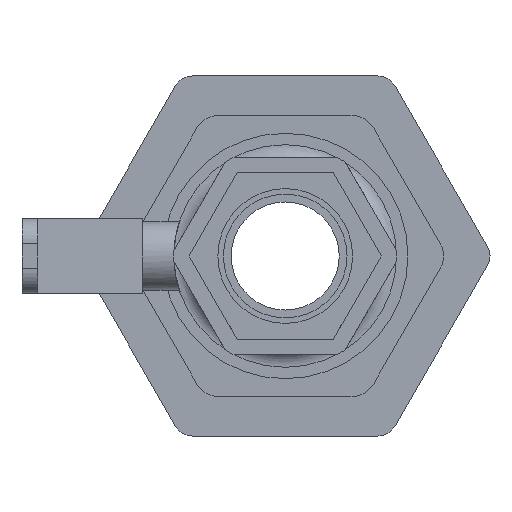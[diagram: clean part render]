
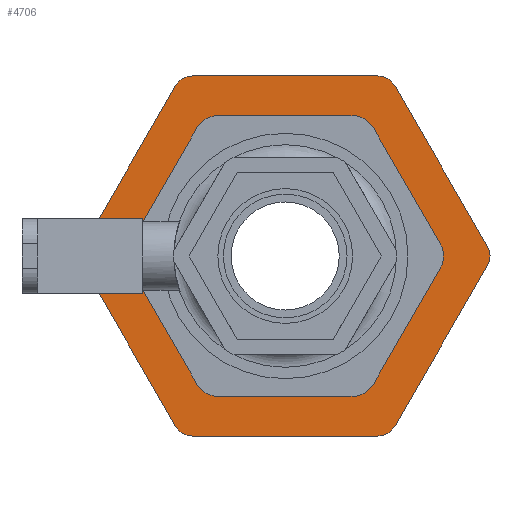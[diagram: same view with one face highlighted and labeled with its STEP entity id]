
A CAD part, left-side view. The second image highlights one B-rep face of the part: STEP entity #4706.
In plain terms, the highlighted planar face has unit normal (-1, 0, 0) as drawn and (1, 0, 0) by its records, which use the part's own axes.
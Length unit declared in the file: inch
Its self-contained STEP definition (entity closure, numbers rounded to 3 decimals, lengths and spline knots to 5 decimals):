
#112=FACE_BOUND('',#759,.T.);
#260=PLANE('',#5324);
#487=FACE_OUTER_BOUND('',#758,.T.);
#758=EDGE_LOOP('',(#3987,#3988,#3989,#3990,#3991,#3992,#3993,#3994,#3995,
#3996,#3997,#3998));
#759=EDGE_LOOP('',(#3999,#4000,#4001,#4002,#4003,#4004,#4005,#4006,#4007,
#4008,#4009,#4010));
#1149=LINE('',#8054,#1548);
#1150=LINE('',#8058,#1549);
#1151=LINE('',#8062,#1550);
#1152=LINE('',#8066,#1551);
#1153=LINE('',#8070,#1552);
#1154=LINE('',#8074,#1553);
#1155=LINE('',#8080,#1554);
#1156=LINE('',#8084,#1555);
#1157=LINE('',#8088,#1556);
#1158=LINE('',#8092,#1557);
#1159=LINE('',#8096,#1558);
#1160=LINE('',#8099,#1559);
#1548=VECTOR('',#6587,0.3937);
#1549=VECTOR('',#6590,0.3937);
#1550=VECTOR('',#6593,0.3937);
#1551=VECTOR('',#6596,0.3937);
#1552=VECTOR('',#6599,0.3937);
#1553=VECTOR('',#6602,0.3937);
#1554=VECTOR('',#6607,0.3937);
#1555=VECTOR('',#6610,0.3937);
#1556=VECTOR('',#6613,0.3937);
#1557=VECTOR('',#6616,0.3937);
#1558=VECTOR('',#6619,0.3937);
#1559=VECTOR('',#6622,0.3937);
#1793=CIRCLE('',#5325,0.1);
#1794=CIRCLE('',#5326,0.1);
#1795=CIRCLE('',#5327,0.1);
#1796=CIRCLE('',#5328,0.1);
#1797=CIRCLE('',#5329,0.1);
#1798=CIRCLE('',#5330,0.1);
#1799=CIRCLE('',#5331,0.125);
#1800=CIRCLE('',#5332,0.125);
#1801=CIRCLE('',#5333,0.125);
#1802=CIRCLE('',#5334,0.125);
#1803=CIRCLE('',#5335,0.125);
#1804=CIRCLE('',#5336,0.125);
#2205=VERTEX_POINT('',#8052);
#2206=VERTEX_POINT('',#8053);
#2207=VERTEX_POINT('',#8055);
#2208=VERTEX_POINT('',#8057);
#2209=VERTEX_POINT('',#8059);
#2210=VERTEX_POINT('',#8061);
#2211=VERTEX_POINT('',#8063);
#2212=VERTEX_POINT('',#8065);
#2213=VERTEX_POINT('',#8067);
#2214=VERTEX_POINT('',#8069);
#2215=VERTEX_POINT('',#8071);
#2216=VERTEX_POINT('',#8073);
#2217=VERTEX_POINT('',#8076);
#2218=VERTEX_POINT('',#8077);
#2219=VERTEX_POINT('',#8079);
#2220=VERTEX_POINT('',#8081);
#2221=VERTEX_POINT('',#8083);
#2222=VERTEX_POINT('',#8085);
#2223=VERTEX_POINT('',#8087);
#2224=VERTEX_POINT('',#8089);
#2225=VERTEX_POINT('',#8091);
#2226=VERTEX_POINT('',#8093);
#2227=VERTEX_POINT('',#8095);
#2228=VERTEX_POINT('',#8097);
#2816=EDGE_CURVE('',#2205,#2206,#1149,.T.);
#2817=EDGE_CURVE('',#2206,#2207,#1793,.T.);
#2818=EDGE_CURVE('',#2207,#2208,#1150,.T.);
#2819=EDGE_CURVE('',#2208,#2209,#1794,.T.);
#2820=EDGE_CURVE('',#2209,#2210,#1151,.T.);
#2821=EDGE_CURVE('',#2210,#2211,#1795,.T.);
#2822=EDGE_CURVE('',#2211,#2212,#1152,.T.);
#2823=EDGE_CURVE('',#2212,#2213,#1796,.T.);
#2824=EDGE_CURVE('',#2213,#2214,#1153,.T.);
#2825=EDGE_CURVE('',#2214,#2215,#1797,.T.);
#2826=EDGE_CURVE('',#2215,#2216,#1154,.T.);
#2827=EDGE_CURVE('',#2216,#2205,#1798,.T.);
#2828=EDGE_CURVE('',#2217,#2218,#1799,.T.);
#2829=EDGE_CURVE('',#2218,#2219,#1155,.T.);
#2830=EDGE_CURVE('',#2219,#2220,#1800,.T.);
#2831=EDGE_CURVE('',#2220,#2221,#1156,.T.);
#2832=EDGE_CURVE('',#2221,#2222,#1801,.T.);
#2833=EDGE_CURVE('',#2222,#2223,#1157,.T.);
#2834=EDGE_CURVE('',#2223,#2224,#1802,.T.);
#2835=EDGE_CURVE('',#2224,#2225,#1158,.T.);
#2836=EDGE_CURVE('',#2225,#2226,#1803,.T.);
#2837=EDGE_CURVE('',#2226,#2227,#1159,.T.);
#2838=EDGE_CURVE('',#2227,#2228,#1804,.T.);
#2839=EDGE_CURVE('',#2228,#2217,#1160,.T.);
#3987=ORIENTED_EDGE('',*,*,#2816,.T.);
#3988=ORIENTED_EDGE('',*,*,#2817,.T.);
#3989=ORIENTED_EDGE('',*,*,#2818,.T.);
#3990=ORIENTED_EDGE('',*,*,#2819,.T.);
#3991=ORIENTED_EDGE('',*,*,#2820,.T.);
#3992=ORIENTED_EDGE('',*,*,#2821,.T.);
#3993=ORIENTED_EDGE('',*,*,#2822,.T.);
#3994=ORIENTED_EDGE('',*,*,#2823,.T.);
#3995=ORIENTED_EDGE('',*,*,#2824,.T.);
#3996=ORIENTED_EDGE('',*,*,#2825,.T.);
#3997=ORIENTED_EDGE('',*,*,#2826,.T.);
#3998=ORIENTED_EDGE('',*,*,#2827,.T.);
#3999=ORIENTED_EDGE('',*,*,#2828,.T.);
#4000=ORIENTED_EDGE('',*,*,#2829,.T.);
#4001=ORIENTED_EDGE('',*,*,#2830,.T.);
#4002=ORIENTED_EDGE('',*,*,#2831,.T.);
#4003=ORIENTED_EDGE('',*,*,#2832,.T.);
#4004=ORIENTED_EDGE('',*,*,#2833,.T.);
#4005=ORIENTED_EDGE('',*,*,#2834,.T.);
#4006=ORIENTED_EDGE('',*,*,#2835,.T.);
#4007=ORIENTED_EDGE('',*,*,#2836,.T.);
#4008=ORIENTED_EDGE('',*,*,#2837,.T.);
#4009=ORIENTED_EDGE('',*,*,#2838,.T.);
#4010=ORIENTED_EDGE('',*,*,#2839,.T.);
#4706=ADVANCED_FACE('',(#487,#112),#260,.F.);
#5324=AXIS2_PLACEMENT_3D('',#8051,#6585,#6586);
#5325=AXIS2_PLACEMENT_3D('',#8056,#6588,#6589);
#5326=AXIS2_PLACEMENT_3D('',#8060,#6591,#6592);
#5327=AXIS2_PLACEMENT_3D('',#8064,#6594,#6595);
#5328=AXIS2_PLACEMENT_3D('',#8068,#6597,#6598);
#5329=AXIS2_PLACEMENT_3D('',#8072,#6600,#6601);
#5330=AXIS2_PLACEMENT_3D('',#8075,#6603,#6604);
#5331=AXIS2_PLACEMENT_3D('',#8078,#6605,#6606);
#5332=AXIS2_PLACEMENT_3D('',#8082,#6608,#6609);
#5333=AXIS2_PLACEMENT_3D('',#8086,#6611,#6612);
#5334=AXIS2_PLACEMENT_3D('',#8090,#6614,#6615);
#5335=AXIS2_PLACEMENT_3D('',#8094,#6617,#6618);
#5336=AXIS2_PLACEMENT_3D('',#8098,#6620,#6621);
#6585=DIRECTION('center_axis',(-1.,0.,0.));
#6586=DIRECTION('ref_axis',(0.,0.,1.));
#6587=DIRECTION('',(0.,-0.5,0.866));
#6588=DIRECTION('center_axis',(1.,0.,0.));
#6589=DIRECTION('ref_axis',(0.,0.,-1.));
#6590=DIRECTION('',(0.,-1.,0.));
#6591=DIRECTION('center_axis',(1.,0.,0.));
#6592=DIRECTION('ref_axis',(0.,0.866,-0.5));
#6593=DIRECTION('',(0.,-0.5,-0.866));
#6594=DIRECTION('center_axis',(1.,0.,0.));
#6595=DIRECTION('ref_axis',(0.,0.866,0.5));
#6596=DIRECTION('',(0.,0.5,-0.866));
#6597=DIRECTION('center_axis',(1.,0.,0.));
#6598=DIRECTION('ref_axis',(0.,0.,1.));
#6599=DIRECTION('',(0.,1.,0.));
#6600=DIRECTION('center_axis',(1.,0.,0.));
#6601=DIRECTION('ref_axis',(0.,-0.866,0.5));
#6602=DIRECTION('',(0.,0.5,0.866));
#6603=DIRECTION('center_axis',(1.,0.,0.));
#6604=DIRECTION('ref_axis',(0.,-0.866,-0.5));
#6605=DIRECTION('center_axis',(-1.,0.,0.));
#6606=DIRECTION('ref_axis',(0.,-0.866,0.5));
#6607=DIRECTION('',(0.,-0.5,-0.866));
#6608=DIRECTION('center_axis',(-1.,0.,0.));
#6609=DIRECTION('ref_axis',(0.,0.,1.));
#6610=DIRECTION('',(0.,-1.,0.));
#6611=DIRECTION('center_axis',(-1.,0.,0.));
#6612=DIRECTION('ref_axis',(0.,0.866,0.5));
#6613=DIRECTION('',(0.,-0.5,0.866));
#6614=DIRECTION('center_axis',(-1.,0.,0.));
#6615=DIRECTION('ref_axis',(0.,0.866,-0.5));
#6616=DIRECTION('',(0.,0.5,0.866));
#6617=DIRECTION('center_axis',(-1.,0.,0.));
#6618=DIRECTION('ref_axis',(0.,0.,-1.));
#6619=DIRECTION('',(0.,1.,0.));
#6620=DIRECTION('center_axis',(-1.,0.,0.));
#6621=DIRECTION('ref_axis',(0.,-0.866,-0.5));
#6622=DIRECTION('',(0.,0.5,-0.866));
#8051=CARTESIAN_POINT('Origin',(1.275,0.,0.));
#8052=CARTESIAN_POINT('',(1.275,1.02141,0.05));
#8053=CARTESIAN_POINT('',(1.275,0.55401,0.85957));
#8054=CARTESIAN_POINT('',(1.275,1.02141,0.05));
#8055=CARTESIAN_POINT('',(1.275,0.4674,0.90957));
#8056=CARTESIAN_POINT('Origin',(1.275,0.4674,0.80957));
#8057=CARTESIAN_POINT('',(1.275,-0.4674,0.90957));
#8058=CARTESIAN_POINT('',(1.275,0.4674,0.90957));
#8059=CARTESIAN_POINT('',(1.275,-0.55401,0.85957));
#8060=CARTESIAN_POINT('Origin',(1.275,-0.4674,0.80957));
#8061=CARTESIAN_POINT('',(1.275,-1.02141,0.05));
#8062=CARTESIAN_POINT('',(1.275,-0.55401,0.85957));
#8063=CARTESIAN_POINT('',(1.275,-1.02141,-0.05));
#8064=CARTESIAN_POINT('Origin',(1.275,-0.93481,0.));
#8065=CARTESIAN_POINT('',(1.275,-0.55401,-0.85957));
#8066=CARTESIAN_POINT('',(1.275,-1.02141,-0.05));
#8067=CARTESIAN_POINT('',(1.275,-0.4674,-0.90957));
#8068=CARTESIAN_POINT('Origin',(1.275,-0.4674,-0.80957));
#8069=CARTESIAN_POINT('',(1.275,0.4674,-0.90957));
#8070=CARTESIAN_POINT('',(1.275,-0.4674,-0.90957));
#8071=CARTESIAN_POINT('',(1.275,0.55401,-0.85957));
#8072=CARTESIAN_POINT('Origin',(1.275,0.4674,-0.80957));
#8073=CARTESIAN_POINT('',(1.275,1.02141,-0.05));
#8074=CARTESIAN_POINT('',(1.275,0.55401,-0.85957));
#8075=CARTESIAN_POINT('Origin',(1.275,0.93481,0.));
#8076=CARTESIAN_POINT('',(1.275,0.78325,0.0625));
#8077=CARTESIAN_POINT('',(1.275,0.78325,-0.0625));
#8078=CARTESIAN_POINT('Origin',(1.275,0.675,0.));
#8079=CARTESIAN_POINT('',(1.275,0.44575,-0.64707));
#8080=CARTESIAN_POINT('',(1.275,0.78325,-0.0625));
#8081=CARTESIAN_POINT('',(1.275,0.3375,-0.70957));
#8082=CARTESIAN_POINT('Origin',(1.275,0.3375,-0.58457));
#8083=CARTESIAN_POINT('',(1.275,-0.3375,-0.70957));
#8084=CARTESIAN_POINT('',(1.275,0.3375,-0.70957));
#8085=CARTESIAN_POINT('',(1.275,-0.44575,-0.64707));
#8086=CARTESIAN_POINT('Origin',(1.275,-0.3375,-0.58457));
#8087=CARTESIAN_POINT('',(1.275,-0.78325,-0.0625));
#8088=CARTESIAN_POINT('',(1.275,-0.44575,-0.64707));
#8089=CARTESIAN_POINT('',(1.275,-0.78325,0.0625));
#8090=CARTESIAN_POINT('Origin',(1.275,-0.675,0.));
#8091=CARTESIAN_POINT('',(1.275,-0.44575,0.64707));
#8092=CARTESIAN_POINT('',(1.275,-0.78325,0.0625));
#8093=CARTESIAN_POINT('',(1.275,-0.3375,0.70957));
#8094=CARTESIAN_POINT('Origin',(1.275,-0.3375,0.58457));
#8095=CARTESIAN_POINT('',(1.275,0.3375,0.70957));
#8096=CARTESIAN_POINT('',(1.275,-0.3375,0.70957));
#8097=CARTESIAN_POINT('',(1.275,0.44575,0.64707));
#8098=CARTESIAN_POINT('Origin',(1.275,0.3375,0.58457));
#8099=CARTESIAN_POINT('',(1.275,0.44575,0.64707));
